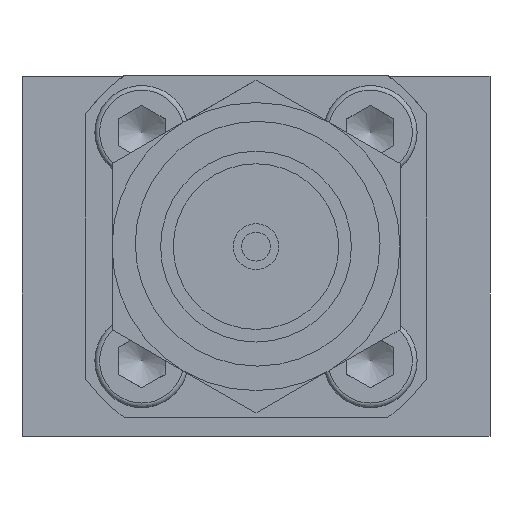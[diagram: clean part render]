
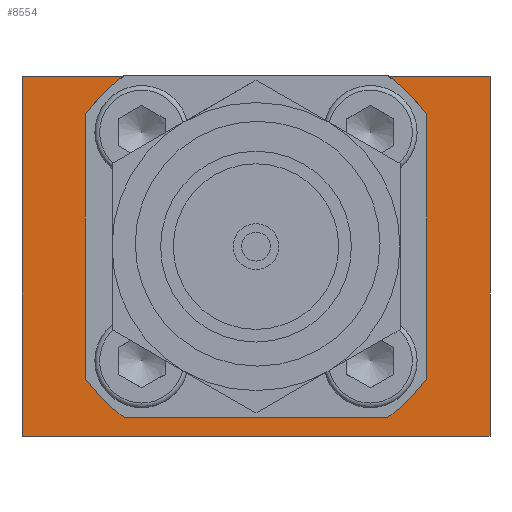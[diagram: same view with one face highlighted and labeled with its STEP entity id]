
A CAD part, front view. The second image highlights one B-rep face of the part: STEP entity #8554.
In plain terms, the highlighted planar face has unit normal (0, -1, 0).
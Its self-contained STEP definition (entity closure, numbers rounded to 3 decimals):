
#106=LINE('',#11092,#618);
#122=LINE('',#11172,#634);
#131=LINE('',#11203,#643);
#135=LINE('',#11215,#647);
#264=LINE('',#11926,#776);
#265=LINE('',#11928,#777);
#266=LINE('',#11930,#778);
#267=LINE('',#11931,#779);
#618=VECTOR('',#9416,1000.);
#634=VECTOR('',#9468,1000.);
#643=VECTOR('',#9497,1000.);
#647=VECTOR('',#9509,1000.);
#776=VECTOR('',#10080,1000.);
#777=VECTOR('',#10081,1000.);
#778=VECTOR('',#10082,1000.);
#779=VECTOR('',#10083,1000.);
#1225=PLANE('',#9074);
#2068=ORIENTED_EDGE('',*,*,#3289,.F.);
#2069=ORIENTED_EDGE('',*,*,#3026,.F.);
#2070=ORIENTED_EDGE('',*,*,#3030,.F.);
#2071=ORIENTED_EDGE('',*,*,#3033,.F.);
#2072=ORIENTED_EDGE('',*,*,#3036,.F.);
#2073=ORIENTED_EDGE('',*,*,#3039,.F.);
#2074=ORIENTED_EDGE('',*,*,#3015,.F.);
#2075=ORIENTED_EDGE('',*,*,#3020,.T.);
#2076=ORIENTED_EDGE('',*,*,#3290,.F.);
#2077=ORIENTED_EDGE('',*,*,#3291,.T.);
#2078=ORIENTED_EDGE('',*,*,#2988,.T.);
#2079=ORIENTED_EDGE('',*,*,#3292,.F.);
#2988=EDGE_CURVE('',#4488,#4489,#106,.T.);
#3015=EDGE_CURVE('',#4510,#4511,#122,.T.);
#3020=EDGE_CURVE('',#4510,#4515,#3746,.T.);
#3026=EDGE_CURVE('',#4519,#4520,#3748,.T.);
#3030=EDGE_CURVE('',#4522,#4519,#131,.T.);
#3033=EDGE_CURVE('',#4524,#4522,#3751,.T.);
#3036=EDGE_CURVE('',#4526,#4524,#135,.T.);
#3039=EDGE_CURVE('',#4511,#4526,#3753,.T.);
#3289=EDGE_CURVE('',#4520,#4719,#264,.T.);
#3290=EDGE_CURVE('',#4720,#4515,#265,.T.);
#3291=EDGE_CURVE('',#4720,#4488,#266,.T.);
#3292=EDGE_CURVE('',#4719,#4489,#267,.T.);
#3746=CIRCLE('',#8842,6.);
#3748=CIRCLE('',#8846,6.);
#3751=CIRCLE('',#8851,6.);
#3753=CIRCLE('',#8855,6.);
#4171=EDGE_LOOP('',(#2068,#2069,#2070,#2071,#2072,#2073,#2074,#2075,#2076,
#2077,#2078,#2079));
#4488=VERTEX_POINT('',#11093);
#4489=VERTEX_POINT('',#11094);
#4510=VERTEX_POINT('',#11173);
#4511=VERTEX_POINT('',#11174);
#4515=VERTEX_POINT('',#11183);
#4519=VERTEX_POINT('',#11196);
#4520=VERTEX_POINT('',#11197);
#4522=VERTEX_POINT('',#11204);
#4524=VERTEX_POINT('',#11210);
#4526=VERTEX_POINT('',#11216);
#4719=VERTEX_POINT('',#11927);
#4720=VERTEX_POINT('',#11929);
#5307=FACE_BOUND('',#4171,.T.);
#8554=ADVANCED_FACE('',(#5307),#1225,.F.);
#8842=AXIS2_PLACEMENT_3D('',#11184,#9476,#9477);
#8846=AXIS2_PLACEMENT_3D('',#11195,#9488,#9489);
#8851=AXIS2_PLACEMENT_3D('',#11209,#9502,#9503);
#8855=AXIS2_PLACEMENT_3D('',#11221,#9514,#9515);
#9074=AXIS2_PLACEMENT_3D('',#11925,#10078,#10079);
#9416=DIRECTION('',(1.,0.,0.));
#9468=DIRECTION('',(0.,0.,-1.));
#9476=DIRECTION('',(0.,1.,0.));
#9477=DIRECTION('',(0.,0.,1.));
#9488=DIRECTION('',(0.,-1.,0.));
#9489=DIRECTION('',(1.,0.,0.));
#9497=DIRECTION('',(0.,0.,1.));
#9502=DIRECTION('',(0.,-1.,0.));
#9503=DIRECTION('',(1.,0.,0.));
#9509=DIRECTION('',(1.,0.,0.));
#9514=DIRECTION('',(0.,-1.,0.));
#9515=DIRECTION('',(1.,0.,0.));
#10078=DIRECTION('',(0.,1.,0.));
#10079=DIRECTION('',(0.,0.,1.));
#10080=DIRECTION('',(1.,0.,0.));
#10081=DIRECTION('',(1.,0.,0.));
#10082=DIRECTION('',(0.,0.,-1.));
#10083=DIRECTION('',(0.,0.,-1.));
#11092=CARTESIAN_POINT('',(0.,-5.8,-7.172));
#11093=CARTESIAN_POINT('',(0.,-5.8,-7.172));
#11094=CARTESIAN_POINT('',(13.,-5.8,-7.172));
#11172=CARTESIAN_POINT('',(1.75,-5.8,1.766));
#11173=CARTESIAN_POINT('',(1.75,-5.8,1.766));
#11174=CARTESIAN_POINT('',(1.75,-5.8,-5.566));
#11183=CARTESIAN_POINT('',(2.806,-5.8,2.828));
#11184=CARTESIAN_POINT('',(6.5,-5.8,-1.9));
#11195=CARTESIAN_POINT('',(6.5,-5.8,-1.9));
#11196=CARTESIAN_POINT('',(11.25,-5.8,1.766));
#11197=CARTESIAN_POINT('',(10.194,-5.8,2.828));
#11203=CARTESIAN_POINT('',(11.25,-5.8,-5.566));
#11204=CARTESIAN_POINT('',(11.25,-5.8,-5.566));
#11209=CARTESIAN_POINT('',(6.5,-5.8,-1.9));
#11210=CARTESIAN_POINT('',(10.166,-5.8,-6.65));
#11215=CARTESIAN_POINT('',(2.834,-5.8,-6.65));
#11216=CARTESIAN_POINT('',(2.834,-5.8,-6.65));
#11221=CARTESIAN_POINT('',(6.5,-5.8,-1.9));
#11925=CARTESIAN_POINT('',(0.,-5.8,2.828));
#11926=CARTESIAN_POINT('',(0.,-5.8,2.828));
#11927=CARTESIAN_POINT('',(13.,-5.8,2.828));
#11928=CARTESIAN_POINT('',(0.,-5.8,2.828));
#11929=CARTESIAN_POINT('',(0.,-5.8,2.828));
#11930=CARTESIAN_POINT('',(0.,-5.8,2.828));
#11931=CARTESIAN_POINT('',(13.,-5.8,2.828));
